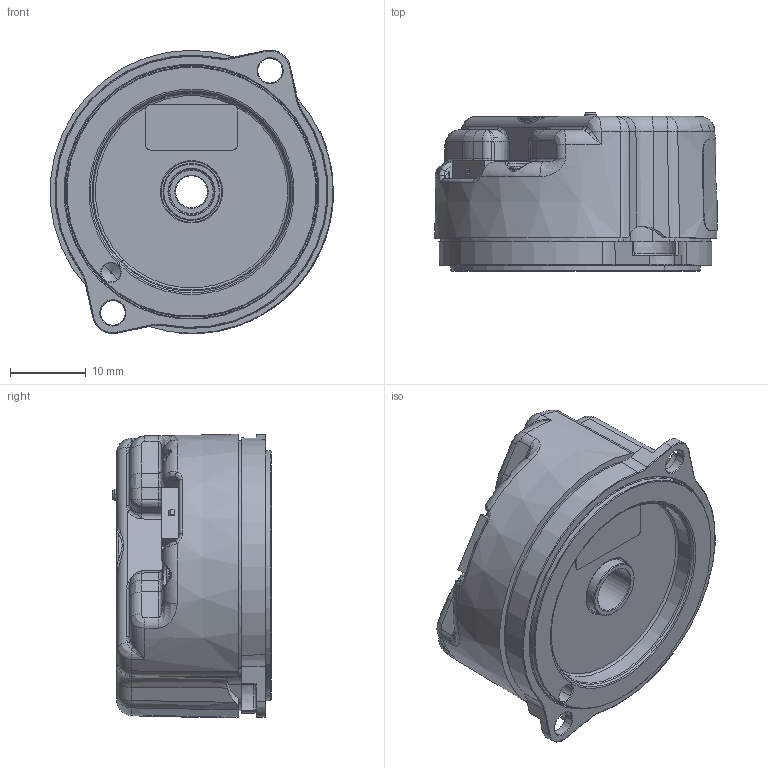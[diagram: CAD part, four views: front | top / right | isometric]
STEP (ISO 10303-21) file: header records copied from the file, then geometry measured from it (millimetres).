
FILE_DESCRIPTION((''),'2;1');
FILE_NAME('AM34Z0G_WITHOUTPLUG','2025-04-10T',('heinz.weber'),(''),'CREO PARAMETRIC BY PTC INC, 2018360','CREO PARAMETRIC BY PTC INC, 2018360','');
FILE_SCHEMA(('AUTOMOTIVE_DESIGN { 1 0 10303 214 1 1 1 1 }'));
Products named in the file (1): AM34Z0G_WITHOUTPLUG
Bounding box: 37.26 x 20.85 x 37.35 mm (x, y, z)
Volume: 17494.6 mm3; surface area: 5746.5 mm2
Topology: 1 solids, 1 shells, 1674 faces, 4941 edges, 3197 vertices
Faces by surface type: plane 1146, cylinder 292, cone 93, bspline 79, torus 60, sphere 4
Entity records: 76086 total; most frequent: CARTESIAN_POINT 21889, ORIENTED_EDGE 9882, DIRECTION 8244, EDGE_CURVE 4941, VECTOR 3408, LINE 3408, VERTEX_POINT 3197, AXIS2_PLACEMENT_3D 2418
